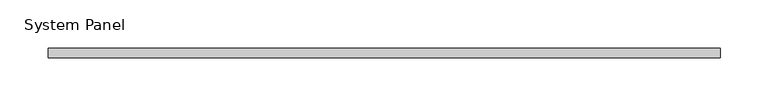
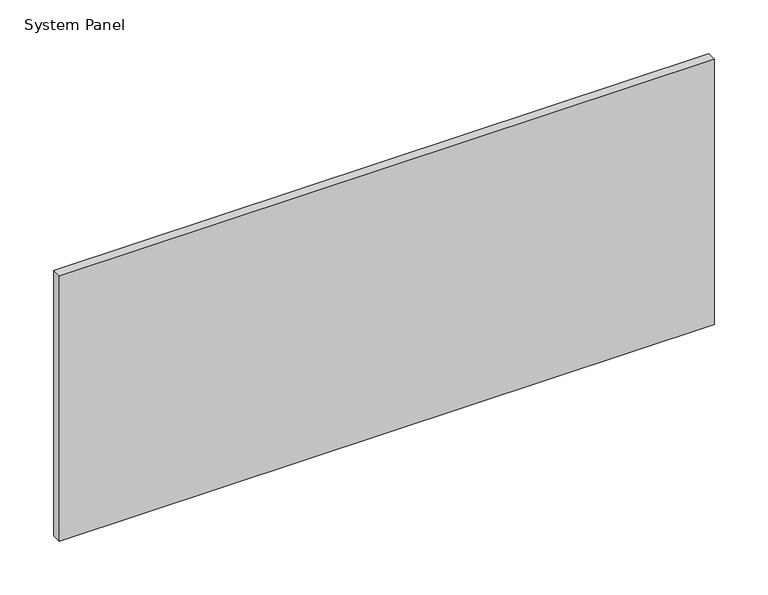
"""IFC4 building model written with IfcOpenShell, lengths in millimetres: plate geometry, System Panel : стекло_смещение_0."""

from ifc_helpers import new_model, si_unit, origin, origin_with_axes, place, context, project, spatial, polyline, outline, extrude, source, transform, mapped, element, save


def system_panel_12c86061(model_context):
    return source(origin(), model_context, "Body", "SweptSolid", [
        extrude(outline(polyline([(350.0, -5.0), (-350.0, -5.0), (-350.0, 5.0), (350.0, 5.0), (350.0, -5.0)])), origin_with_axes(), (0.0, 0.0, 1.0), 300.0),
    ])


if __name__ == "__main__":
    model = new_model("IFC4")
    model_context = context("Model", 3, world=origin())
    ifc_project = project(units=[si_unit("LENGTHUNIT", "METRE", prefix="MILLI")], contexts=[model_context])
    site = spatial("IfcSite", under=ifc_project)
    building = spatial("IfcBuilding", under=site)
    placement = place(None, origin())
    system_panel_shape = system_panel_12c86061(model_context)
    element("IfcPlate", 1, ObjectType="System Panel : стекло_смещение_0", at=placement, inside=building, context=model_context, shape_type="MappedRepresentation", body=[
        mapped(system_panel_shape, transform((0.0, 0.0, 0.0), x_axis=(1.0, 0.0, 0.0), y_axis=(0.0, 1.0, 0.0), z_axis=(0.0, 0.0, 1.0))),
    ])
    save(model, "model.ifc")
